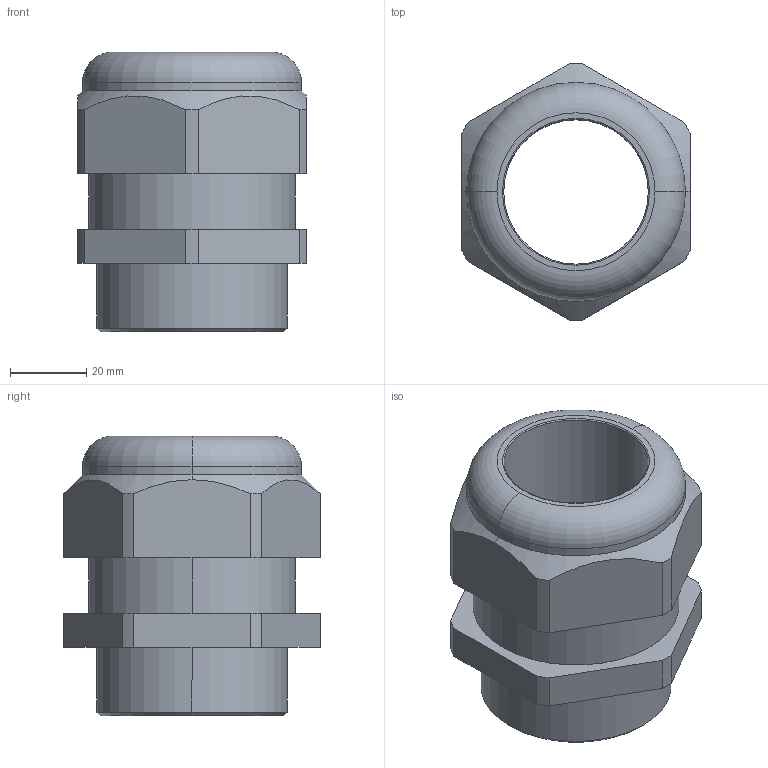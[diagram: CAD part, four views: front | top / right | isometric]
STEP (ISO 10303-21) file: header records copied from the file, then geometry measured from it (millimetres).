
FILE_DESCRIPTION (( 'STEP AP203' ), '1' );
FILE_NAME ('50042M50PA.STEP', '2005-09-19T13:09:21', ( ' ' ), ( '' ), 'SwSTEP 2.0', 'SolidWorks 2005143', '' );
FILE_SCHEMA (( 'CONFIG_CONTROL_DESIGN' ));
Length unit declared in the file: millimetre
Products named in the file (1): 50042M50PA
Bounding box: 60 x 67.39 x 73.5 mm (x, y, z)
Volume: 104387.6 mm3; surface area: 26663.7 mm2
Topology: 1 solids, 1 shells, 82 faces, 214 edges, 140 vertices
Faces by surface type: plane 54, cylinder 20, cone 4, torus 4
Entity records: 2681 total; most frequent: CARTESIAN_POINT 549, ORIENTED_EDGE 428, DIRECTION 422, EDGE_CURVE 214, LINE 156, VECTOR 156, VERTEX_POINT 140, AXIS2_PLACEMENT_3D 133
